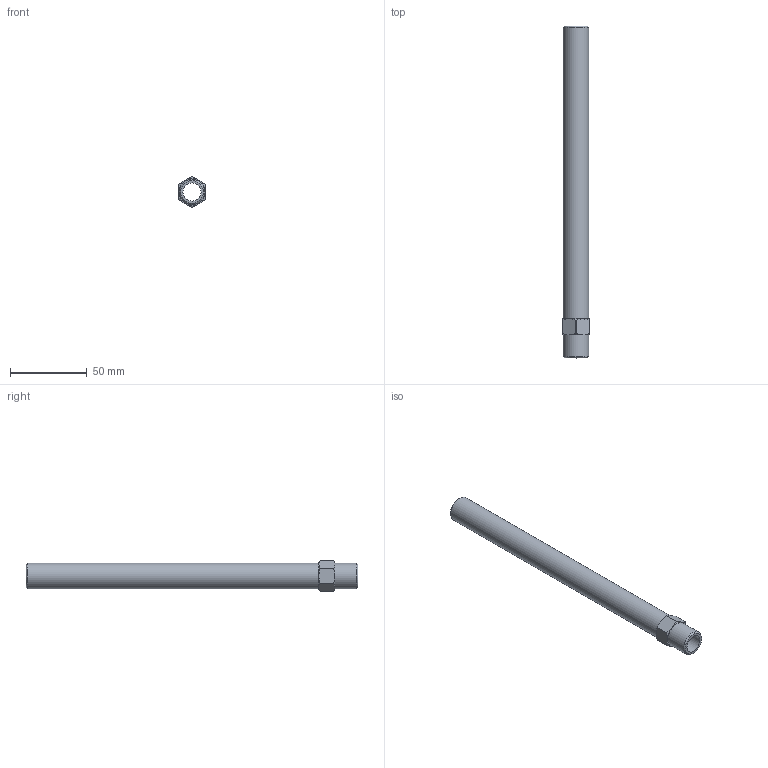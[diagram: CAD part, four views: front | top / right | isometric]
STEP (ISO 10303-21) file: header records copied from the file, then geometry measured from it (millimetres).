
FILE_DESCRIPTION(/* description */ (''),/* implementation_level */ '2;1');
FILE_NAME(/* name */ 'C:/Users/drich/Desktop/APN38-8-1_2 v1.step',/* time_stamp */ '2019-12-27T17:54:49-06:00',/* author */ (''),/* organization */ (''),/* preprocessor_version */ 'ST-DEVELOPER v18',/* originating_system */ 'Autodesk Translation Framework v8.12.0.6',/* authorisation */ '');
FILE_SCHEMA (('AUTOMOTIVE_DESIGN { 1 0 10303 214 3 1 1 }'));
Length unit declared in the file: inch
Products named in the file (1): APN38-8-1_2
Bounding box: 17.45 x 215.9 x 20.12 mm (x, y, z)
Volume: 22868.8 mm3; surface area: 19601.3 mm2
Topology: 1 solids, 1 shells, 33 faces, 89 edges, 60 vertices
Faces by surface type: cone 14, plane 10, cylinder 9
Full cylindrical faces by diameter (mm): 11.887 x1, 16.537 x2
Entity records: 1077 total; most frequent: CARTESIAN_POINT 231, ORIENTED_EDGE 178, DIRECTION 169, EDGE_CURVE 89, AXIS2_PLACEMENT_3D 70, VERTEX_POINT 60, EDGE_LOOP 37, CIRCLE 36
